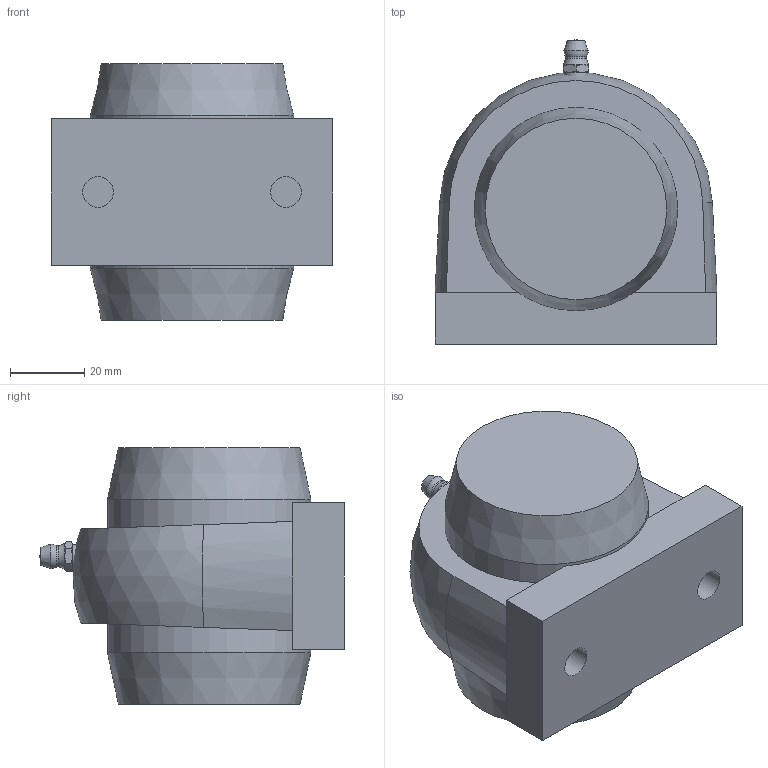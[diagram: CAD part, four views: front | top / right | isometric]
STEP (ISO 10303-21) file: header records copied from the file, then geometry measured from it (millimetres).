
FILE_DESCRIPTION(/* description */ (''),/* implementation_level */ '2;1');
FILE_NAME(/* name */ 'C:\Users\UGijyutu_200702\Desktop\77.プラスチックハウジング\MBTBL200V\MBTBL200VE\MBTBL205VE.stp',/* time_stamp */ '2024-05-28T13:18:31+09:00',/* author */ ('UGijyutu_200702'),/* organization */ (''),/* preprocessor_version */ 'ST-DEVELOPER v18',/* originating_system */ 'Autodesk Inventor 2020',/* authorisation */ '');
FILE_SCHEMA (('AUTOMOTIVE_DESIGN { 1 0 10303 214 3 1 1 }'));
Length unit declared in the file: millimetre
Products named in the file (6): MBTBL205V; TBL205; MB5 V; 1/4-28UNF-2A; 205C; 205E
Assembly tree (5 placements, depth 2):
  MBTBL205V
    TBL205
    MB5 V
    1/4-28UNF-2A
    205C
    205E
Bounding box: 76.2 x 82.3 x 69.4 mm (x, y, z)
Volume: 138870.9 mm3; surface area: 53997.8 mm2
Topology: 5 solids, 5 shells, 104 faces, 251 edges, 172 vertices
Faces by surface type: plane 54, cylinder 24, cone 19, sphere 5, torus 2
Full cylindrical faces by diameter (mm): 3.2 x1, 5 x2, 5.359 x1, 6.35 x1, 8.376 x2, 25 x2, 30 x1, 34 x1, 40.6 x1, 51.4 x2, 54.8 x2, 55 x2
Entity records: 3582 total; most frequent: CARTESIAN_POINT 791, DIRECTION 563, ORIENTED_EDGE 500, EDGE_CURVE 250, AXIS2_PLACEMENT_3D 236, VERTEX_POINT 172, EDGE_LOOP 128, CIRCLE 111
